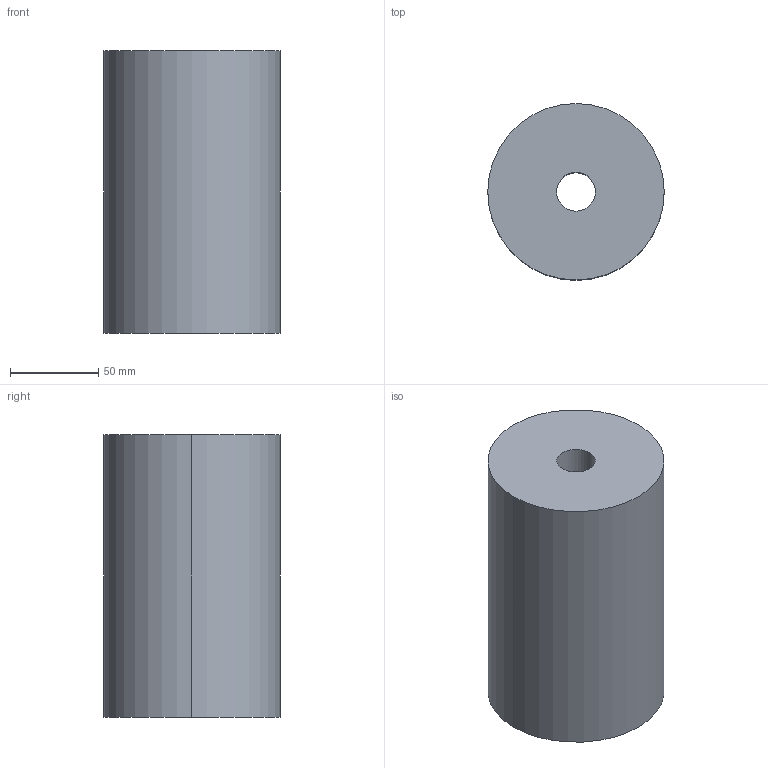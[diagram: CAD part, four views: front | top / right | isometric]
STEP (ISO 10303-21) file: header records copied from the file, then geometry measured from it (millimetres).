
FILE_DESCRIPTION(/* description */ (''),/* implementation_level */ '2;1');
FILE_NAME(/* name */ '3d_pa100-160_04909_r00.stp',/* time_stamp */ '2011-01-10T14:11:58+09:00',/* author */ ('MISUMI'),/* organization */ (''),/* preprocessor_version */ 'ST-DEVELOPER v11',/* originating_system */ 'UGS - NX 5.0',/* authorisation */ '');
FILE_SCHEMA (('CONFIG_CONTROL_DESIGN'));
Length unit declared in the file: millimetre
Products named in the file (1): 3d_pa100-160_04909_r00
Bounding box: 100 x 100 x 160 mm (x, y, z)
Volume: 1195815.8 mm3; surface area: 76271.6 mm2
Topology: 1 solids, 1 shells, 6 faces, 12 edges, 8 vertices
Faces by surface type: cylinder 4, plane 2
Entity records: 254 total; most frequent: DIRECTION 34, CARTESIAN_POINT 27, ORIENTED_EDGE 24, AXIS2_PLACEMENT_3D 15, EDGE_CURVE 12, EDGE_LOOP 8, VERTEX_POINT 8, CIRCLE 8
